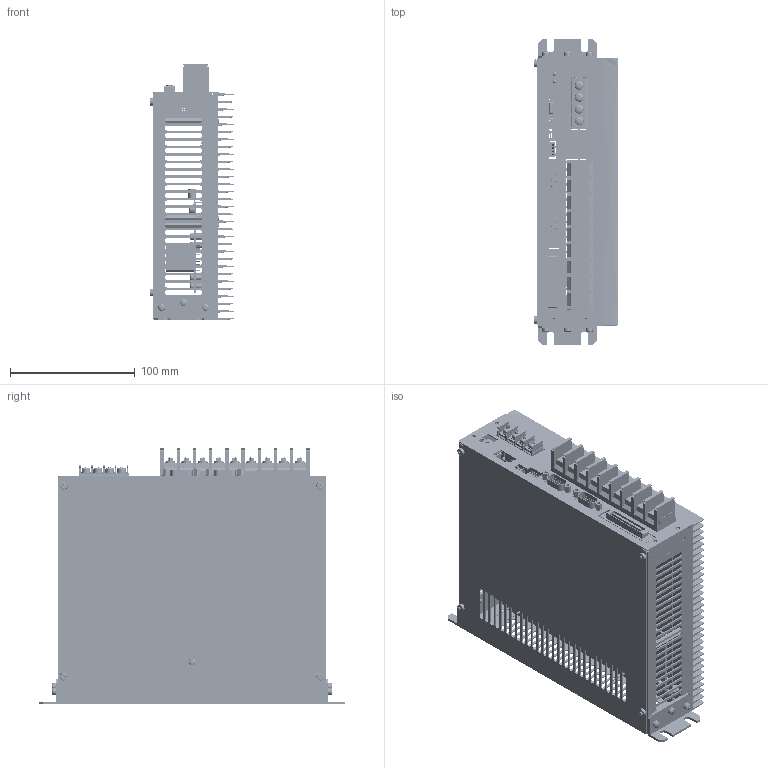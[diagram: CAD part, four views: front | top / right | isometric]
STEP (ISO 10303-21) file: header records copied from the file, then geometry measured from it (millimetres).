
FILE_DESCRIPTION(('HOOPS Exchange Step'),'2;1');
FILE_NAME('/tmp/880fe811ab1f86a8f02a7e6c8cf03b2f20230329-1-1cuykcs.X_T.step','2023-03-29T07:12:19+00:00',('root'),('Unknown organisation'),'HOOPS Exchange 2021.0','HOOPS Exchange','Unknown authorisation');
FILE_SCHEMA( ('AUTOMOTIVE_DESIGN { 1 0 10303 214 1 1 1 1 }') );
Length unit declared in the file: millimetre
Products named in the file (1): 880fe811ab1f86a8f02a7e6c8cf03b2f20230329-1-1cuykcs
Bounding box: 67.4 x 245 x 205.51 mm (x, y, z)
Volume: 561259.7 mm3; surface area: 634712.7 mm2
Topology: 506 solids, 976 shells, 5756 faces, 19649 edges, 15510 vertices
Faces by surface type: plane 4192, cylinder 1188, bspline 262, extrusion 78, sphere 20, cone 16
Full cylindrical faces by diameter (mm): 0.5 x36, 0.8 x81, 0.9 x1, 1 x18, 1.2 x19, 1.4 x4, 1.7 x2, 2 x49, 2.5 x2, 2.8 x8, 3 x112, 3.1 x6, 3.2 x4, 3.5 x36, 3.8 x4, 4 x65, 4.3 x2, 5 x5, 5.5 x39, 6 x4, 6.5 x2, 7 x31, 8 x25, 12.652 x2, 19.052 x4, 22.752 x2
Entity records: 233888 total; most frequent: CARTESIAN_POINT 62517, ORIENTED_EDGE 32860, DIRECTION 32302, EDGE_CURVE 19526, VERTEX_POINT 15384, VECTOR 14322, LINE 14244, AXIS2_PLACEMENT_3D 8990
